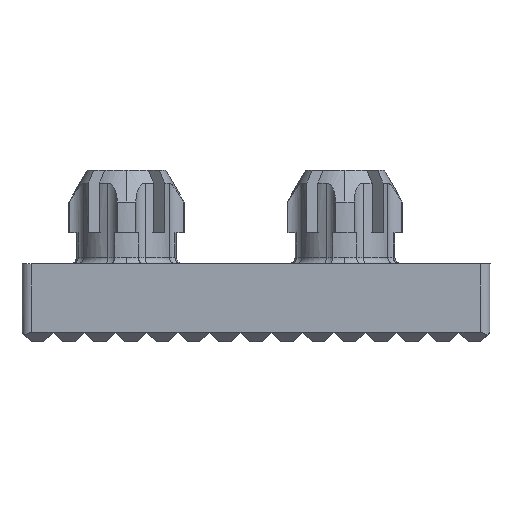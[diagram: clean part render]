
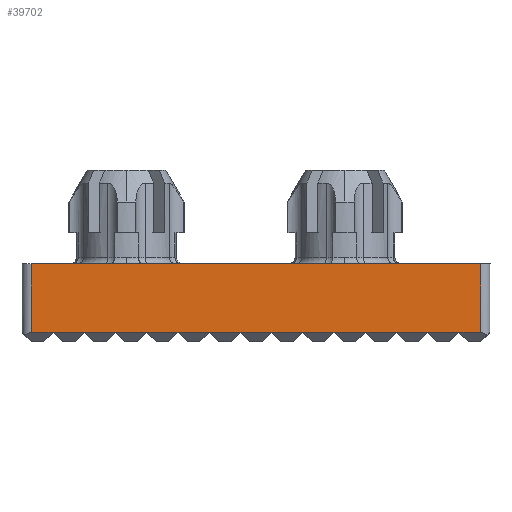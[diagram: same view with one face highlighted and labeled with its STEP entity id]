
A CAD part, front view. The second image highlights one B-rep face of the part: STEP entity #39702.
In plain terms, the highlighted planar face has unit normal (0, -1, 0).
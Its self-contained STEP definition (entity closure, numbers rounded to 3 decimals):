
#172 = LINE ( 'NONE', #2730, #37165 ) ;
#223 = CARTESIAN_POINT ( 'NONE',  ( 40.427, 59.8, 12.825 ) ) ;
#671 = VERTEX_POINT ( 'NONE', #37577 ) ;
#982 = ORIENTED_EDGE ( 'NONE', *, *, #35569, .T. ) ;
#1083 = LINE ( 'NONE', #22737, #46522 ) ;
#1156 = DIRECTION ( 'NONE',  ( 0., -1., 0. ) ) ;
#1279 = CARTESIAN_POINT ( 'NONE',  ( 38.427, 59.8, 12.825 ) ) ;
#1520 = CARTESIAN_POINT ( 'NONE',  ( 37.427, 59.8, 12.825 ) ) ;
#1590 = VECTOR ( 'NONE', #8586, 1000. ) ;
#2730 = CARTESIAN_POINT ( 'NONE',  ( 36.927, 59.8, 12.825 ) ) ;
#2813 = VERTEX_POINT ( 'NONE', #18401 ) ;
#2955 = EDGE_CURVE ( 'NONE', #12064, #25330, #4925, .T. ) ;
#3258 = CARTESIAN_POINT ( 'NONE',  ( 36.927, 59.8, 12.825 ) ) ;
#3344 = VECTOR ( 'NONE', #26639, 1000. ) ;
#3581 = CARTESIAN_POINT ( 'NONE',  ( 34.427, 59.8, 12.825 ) ) ;
#4408 = EDGE_CURVE ( 'NONE', #11988, #25330, #15034, .T. ) ;
#4620 = EDGE_CURVE ( 'NONE', #29030, #2813, #7153, .T. ) ;
#4925 = LINE ( 'NONE', #11982, #22863 ) ;
#5161 = DIRECTION ( 'NONE',  ( 1., 0., 0. ) ) ;
#5254 = DIRECTION ( 'NONE',  ( 1., 0., 0. ) ) ;
#5296 = ORIENTED_EDGE ( 'NONE', *, *, #34232, .T. ) ;
#5335 = CARTESIAN_POINT ( 'NONE',  ( 33.427, 59.8, 12.825 ) ) ;
#5509 = EDGE_CURVE ( 'NONE', #5684, #44190, #15469, .T. ) ;
#5684 = VERTEX_POINT ( 'NONE', #10271 ) ;
#5709 = DIRECTION ( 'NONE',  ( 1., 0., 0. ) ) ;
#5929 = DIRECTION ( 'NONE',  ( 0., 0., 1. ) ) ;
#6008 = VERTEX_POINT ( 'NONE', #44491 ) ;
#6946 = VECTOR ( 'NONE', #12603, 1000. ) ;
#7040 = CARTESIAN_POINT ( 'NONE',  ( 42.427, 59.8, 12.825 ) ) ;
#7153 = LINE ( 'NONE', #39274, #43004 ) ;
#8187 = LINE ( 'NONE', #26235, #26085 ) ;
#8454 = LINE ( 'NONE', #29199, #16864 ) ;
#8586 = DIRECTION ( 'NONE',  ( 0., 0., -1. ) ) ;
#8610 = ORIENTED_EDGE ( 'NONE', *, *, #18000, .T. ) ;
#8813 = CARTESIAN_POINT ( 'NONE',  ( 36.927, 59.8, 12.825 ) ) ;
#8908 = DIRECTION ( 'NONE',  ( 1., 0., 0. ) ) ;
#8984 = CARTESIAN_POINT ( 'NONE',  ( 36.927, 59.8, 12.825 ) ) ;
#9913 = EDGE_CURVE ( 'NONE', #12064, #29569, #18451, .T. ) ;
#10214 = VERTEX_POINT ( 'NONE', #10460 ) ;
#10271 = CARTESIAN_POINT ( 'NONE',  ( 39.427, 59.8, 12.825 ) ) ;
#10460 = CARTESIAN_POINT ( 'NONE',  ( 41.427, 59.8, 12.825 ) ) ;
#11982 = CARTESIAN_POINT ( 'NONE',  ( 36.927, 59.8, 15.025 ) ) ;
#11988 = VERTEX_POINT ( 'NONE', #42264 ) ;
#12050 = DIRECTION ( 'NONE',  ( 1., 0., 0. ) ) ;
#12064 = VERTEX_POINT ( 'NONE', #21449 ) ;
#12347 = CARTESIAN_POINT ( 'NONE',  ( 36.927, 59.8, 12.825 ) ) ;
#12432 = DIRECTION ( 'NONE',  ( 1., 0., 0. ) ) ;
#12523 = CARTESIAN_POINT ( 'NONE',  ( 36.927, 59.8, 12.825 ) ) ;
#12603 = DIRECTION ( 'NONE',  ( 1., 0., 0. ) ) ;
#12833 = CARTESIAN_POINT ( 'NONE',  ( 36.927, 59.8, 12.825 ) ) ;
#12844 = ORIENTED_EDGE ( 'NONE', *, *, #31396, .T. ) ;
#13611 = DIRECTION ( 'NONE',  ( 1., 0., 0. ) ) ;
#13919 = VECTOR ( 'NONE', #5929, 1000. ) ;
#14427 = DIRECTION ( 'NONE',  ( 1., 0., 0. ) ) ;
#14576 = CARTESIAN_POINT ( 'NONE',  ( 36.927, 59.8, 12.825 ) ) ;
#15034 = LINE ( 'NONE', #23780, #13919 ) ;
#15359 = VECTOR ( 'NONE', #8908, 1000. ) ;
#15469 = LINE ( 'NONE', #30774, #33399 ) ;
#16264 = FACE_OUTER_BOUND ( 'NONE', #42460, .T. ) ;
#16425 = DIRECTION ( 'NONE',  ( 1., 0., 0. ) ) ;
#16489 = ORIENTED_EDGE ( 'NONE', *, *, #39749, .T. ) ;
#16864 = VECTOR ( 'NONE', #32787, 1000. ) ;
#17205 = AXIS2_PLACEMENT_3D ( 'NONE', #44094, #1156, #26215 ) ;
#17428 = CARTESIAN_POINT ( 'NONE',  ( 29.727, 59.8, 12.825 ) ) ;
#17853 = VECTOR ( 'NONE', #16425, 1000. ) ;
#17935 = VECTOR ( 'NONE', #12432, 1000. ) ;
#18000 = EDGE_CURVE ( 'NONE', #2813, #671, #42791, .T. ) ;
#18401 = CARTESIAN_POINT ( 'NONE',  ( 31.427, 59.8, 12.825 ) ) ;
#18451 = LINE ( 'NONE', #40813, #1590 ) ;
#19044 = VERTEX_POINT ( 'NONE', #1520 ) ;
#19045 = PLANE ( 'NONE',  #17205 ) ;
#19415 = CARTESIAN_POINT ( 'NONE',  ( 30.427, 59.8, 12.825 ) ) ;
#20065 = EDGE_CURVE ( 'NONE', #29569, #29030, #8454, .T. ) ;
#20095 = LINE ( 'NONE', #12833, #17853 ) ;
#20271 = VERTEX_POINT ( 'NONE', #5335 ) ;
#20708 = CARTESIAN_POINT ( 'NONE',  ( 44.127, 59.8, 15.025 ) ) ;
#21083 = LINE ( 'NONE', #3258, #39003 ) ;
#21101 = VECTOR ( 'NONE', #5254, 1000. ) ;
#21449 = CARTESIAN_POINT ( 'NONE',  ( 29.727, 59.8, 15.025 ) ) ;
#22021 = VERTEX_POINT ( 'NONE', #23845 ) ;
#22219 = LINE ( 'NONE', #12347, #21101 ) ;
#22737 = CARTESIAN_POINT ( 'NONE',  ( 36.927, 59.8, 12.825 ) ) ;
#22833 = VERTEX_POINT ( 'NONE', #3581 ) ;
#22863 = VECTOR ( 'NONE', #37011, 1000. ) ;
#22954 = ORIENTED_EDGE ( 'NONE', *, *, #34388, .T. ) ;
#23060 = CARTESIAN_POINT ( 'NONE',  ( 36.927, 59.8, 12.825 ) ) ;
#23277 = EDGE_CURVE ( 'NONE', #44190, #10214, #172, .T. ) ;
#23780 = CARTESIAN_POINT ( 'NONE',  ( 44.127, 59.8, 13.825 ) ) ;
#23845 = CARTESIAN_POINT ( 'NONE',  ( 43.427, 59.8, 12.825 ) ) ;
#24133 = ORIENTED_EDGE ( 'NONE', *, *, #23277, .T. ) ;
#24338 = VECTOR ( 'NONE', #14427, 1000. ) ;
#25046 = EDGE_CURVE ( 'NONE', #6008, #40293, #1083, .T. ) ;
#25101 = EDGE_CURVE ( 'NONE', #22833, #6008, #26303, .T. ) ;
#25123 = ORIENTED_EDGE ( 'NONE', *, *, #20065, .T. ) ;
#25330 = VERTEX_POINT ( 'NONE', #20708 ) ;
#25448 = LINE ( 'NONE', #14576, #24338 ) ;
#25626 = ORIENTED_EDGE ( 'NONE', *, *, #40819, .T. ) ;
#26085 = VECTOR ( 'NONE', #12050, 1000. ) ;
#26215 = DIRECTION ( 'NONE',  ( 0., 0., -1. ) ) ;
#26235 = CARTESIAN_POINT ( 'NONE',  ( 36.927, 59.8, 12.825 ) ) ;
#26303 = LINE ( 'NONE', #8813, #17935 ) ;
#26639 = DIRECTION ( 'NONE',  ( 1., 0., 0. ) ) ;
#26642 = ORIENTED_EDGE ( 'NONE', *, *, #5509, .T. ) ;
#27858 = EDGE_CURVE ( 'NONE', #20271, #22833, #8187, .T. ) ;
#28331 = ORIENTED_EDGE ( 'NONE', *, *, #9913, .T. ) ;
#28436 = EDGE_CURVE ( 'NONE', #33293, #5684, #35527, .T. ) ;
#28629 = DIRECTION ( 'NONE',  ( 1., 0., 0. ) ) ;
#29030 = VERTEX_POINT ( 'NONE', #19415 ) ;
#29199 = CARTESIAN_POINT ( 'NONE',  ( 36.927, 59.8, 12.825 ) ) ;
#29569 = VERTEX_POINT ( 'NONE', #17428 ) ;
#30774 = CARTESIAN_POINT ( 'NONE',  ( 36.927, 59.8, 12.825 ) ) ;
#31396 = EDGE_CURVE ( 'NONE', #22021, #11988, #46505, .T. ) ;
#31941 = LINE ( 'NONE', #23060, #3344 ) ;
#32787 = DIRECTION ( 'NONE',  ( 1., 0., 0. ) ) ;
#33293 = VERTEX_POINT ( 'NONE', #1279 ) ;
#33399 = VECTOR ( 'NONE', #5709, 1000. ) ;
#33694 = CARTESIAN_POINT ( 'NONE',  ( 36.927, 59.8, 12.825 ) ) ;
#34232 = EDGE_CURVE ( 'NONE', #10214, #35619, #25448, .T. ) ;
#34388 = EDGE_CURVE ( 'NONE', #671, #20271, #20095, .T. ) ;
#35527 = LINE ( 'NONE', #8984, #6946 ) ;
#35569 = EDGE_CURVE ( 'NONE', #35619, #22021, #21083, .T. ) ;
#35619 = VERTEX_POINT ( 'NONE', #7040 ) ;
#36969 = VECTOR ( 'NONE', #5161, 1000. ) ;
#37011 = DIRECTION ( 'NONE',  ( 1., 0., 0. ) ) ;
#37165 = VECTOR ( 'NONE', #13611, 1000. ) ;
#37577 = CARTESIAN_POINT ( 'NONE',  ( 32.427, 59.8, 12.825 ) ) ;
#37608 = ORIENTED_EDGE ( 'NONE', *, *, #2955, .F. ) ;
#39003 = VECTOR ( 'NONE', #46195, 1000. ) ;
#39012 = ORIENTED_EDGE ( 'NONE', *, *, #4408, .T. ) ;
#39269 = ORIENTED_EDGE ( 'NONE', *, *, #25046, .T. ) ;
#39274 = CARTESIAN_POINT ( 'NONE',  ( 36.927, 59.8, 12.825 ) ) ;
#39702 = ADVANCED_FACE ( 'NONE', ( #16264 ), #19045, .T. ) ;
#39749 = EDGE_CURVE ( 'NONE', #19044, #33293, #31941, .T. ) ;
#40293 = VERTEX_POINT ( 'NONE', #44942 ) ;
#40813 = CARTESIAN_POINT ( 'NONE',  ( 29.727, 59.8, 13.825 ) ) ;
#40819 = EDGE_CURVE ( 'NONE', #40293, #19044, #22219, .T. ) ;
#42264 = CARTESIAN_POINT ( 'NONE',  ( 44.127, 59.8, 12.825 ) ) ;
#42460 = EDGE_LOOP ( 'NONE', ( #39012, #37608, #28331, #25123, #44215, #8610, #22954, #45538, #45888, #39269, #25626, #16489, #45266, #26642, #24133, #5296, #982, #12844 ) ) ;
#42791 = LINE ( 'NONE', #12523, #15359 ) ;
#43004 = VECTOR ( 'NONE', #28629, 1000. ) ;
#44094 = CARTESIAN_POINT ( 'NONE',  ( 29.727, 59.8, 14.825 ) ) ;
#44190 = VERTEX_POINT ( 'NONE', #223 ) ;
#44196 = DIRECTION ( 'NONE',  ( 1., 0., 0. ) ) ;
#44215 = ORIENTED_EDGE ( 'NONE', *, *, #4620, .T. ) ;
#44491 = CARTESIAN_POINT ( 'NONE',  ( 35.427, 59.8, 12.825 ) ) ;
#44942 = CARTESIAN_POINT ( 'NONE',  ( 36.427, 59.8, 12.825 ) ) ;
#45266 = ORIENTED_EDGE ( 'NONE', *, *, #28436, .T. ) ;
#45538 = ORIENTED_EDGE ( 'NONE', *, *, #27858, .T. ) ;
#45888 = ORIENTED_EDGE ( 'NONE', *, *, #25101, .T. ) ;
#46195 = DIRECTION ( 'NONE',  ( 1., 0., 0. ) ) ;
#46505 = LINE ( 'NONE', #33694, #36969 ) ;
#46522 = VECTOR ( 'NONE', #44196, 1000. ) ;
